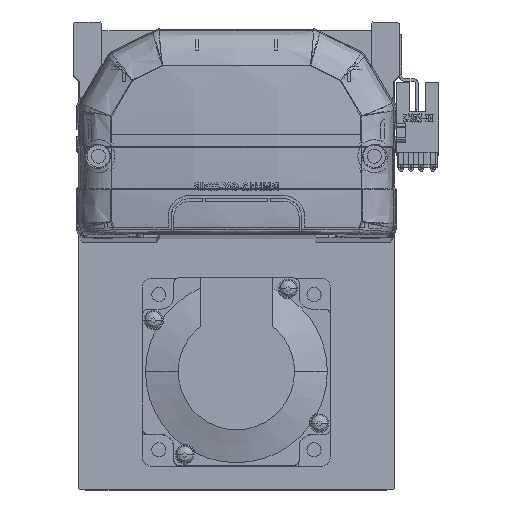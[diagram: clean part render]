
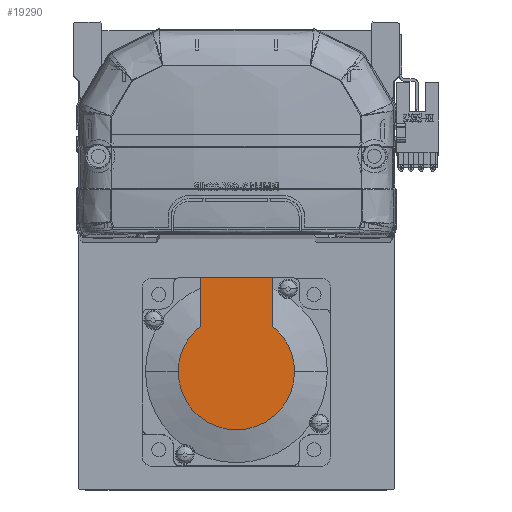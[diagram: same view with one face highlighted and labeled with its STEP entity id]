
A CAD part, top view. The second image highlights one B-rep face of the part: STEP entity #19290.
In plain terms, the highlighted planar face has unit normal (0, 0, 1) as drawn and (-1, 0, 0) by its records, which use the part's own axes.
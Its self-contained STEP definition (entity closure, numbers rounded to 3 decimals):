
#345 = ORIENTED_EDGE ( 'NONE', *, *, #17958, .F. ) ;
#1039 = ORIENTED_EDGE ( 'NONE', *, *, #50649, .T. ) ;
#4267 = EDGE_CURVE ( 'NONE', #32188, #49917, #45121, .T. ) ;
#5040 = AXIS2_PLACEMENT_3D ( 'NONE', #12572, #54698, #59197 ) ;
#7192 = VECTOR ( 'NONE', #46853, 1000. ) ;
#7307 = EDGE_CURVE ( 'NONE', #56940, #49917, #9126, .T. ) ;
#9040 = CARTESIAN_POINT ( 'NONE',  ( -79., 14.579, -11.45 ) ) ;
#9126 = LINE ( 'NONE', #28325, #34596 ) ;
#9581 = DIRECTION ( 'NONE',  ( 0., 0., 1. ) ) ;
#12572 = CARTESIAN_POINT ( 'NONE',  ( -79., 0., 0. ) ) ;
#13015 = CARTESIAN_POINT ( 'NONE',  ( -79., 0., -18.538 ) ) ;
#15123 = CARTESIAN_POINT ( 'NONE',  ( -79., -9.269, -11.45 ) ) ;
#15402 = CARTESIAN_POINT ( 'NONE',  ( -79., 30., 11.45 ) ) ;
#15641 = EDGE_CURVE ( 'NONE', #35999, #32188, #29150, .T. ) ;
#16313 = CARTESIAN_POINT ( 'NONE',  ( -79., 14.579, 11.45 ) ) ;
#17358 = AXIS2_PLACEMENT_3D ( 'NONE', #41036, #46353, #18283 ) ;
#17695 = FACE_OUTER_BOUND ( 'NONE', #18378, .T. ) ;
#17958 = EDGE_CURVE ( 'NONE', #23715, #56940, #58172, .T. ) ;
#18283 = DIRECTION ( 'NONE',  ( 0., 0., 1. ) ) ;
#18378 = EDGE_LOOP ( 'NONE', ( #21357, #1039, #28835, #54352, #44332, #345 ) ) ;
#19290 = ADVANCED_FACE ( 'NONE', ( #17695 ), #32317, .T. ) ;
#21357 = ORIENTED_EDGE ( 'NONE', *, *, #27764, .T. ) ;
#22863 = CARTESIAN_POINT ( 'NONE',  ( -79., 0., 0. ) ) ;
#22923 = DIRECTION ( 'NONE',  ( -1., 0., 0. ) ) ;
#23715 = VERTEX_POINT ( 'NONE', #56802 ) ;
#27764 = EDGE_CURVE ( 'NONE', #23715, #47859, #31970, .T. ) ;
#28325 = CARTESIAN_POINT ( 'NONE',  ( -79., 0., 11.45 ) ) ;
#28835 = ORIENTED_EDGE ( 'NONE', *, *, #15641, .T. ) ;
#29150 = CIRCLE ( 'NONE', #53121, 18.538 ) ;
#31970 = LINE ( 'NONE', #15123, #7192 ) ;
#32078 = DIRECTION ( 'NONE',  ( 0., 0., -1. ) ) ;
#32188 = VERTEX_POINT ( 'NONE', #34451 ) ;
#32317 = PLANE ( 'NONE',  #17358 ) ;
#32917 = AXIS2_PLACEMENT_3D ( 'NONE', #22863, #45640, #36281 ) ;
#34436 = CIRCLE ( 'NONE', #32917, 18.538 ) ;
#34451 = CARTESIAN_POINT ( 'NONE',  ( -79., 0., 18.538 ) ) ;
#34596 = VECTOR ( 'NONE', #52101, 1000. ) ;
#35999 = VERTEX_POINT ( 'NONE', #13015 ) ;
#36281 = DIRECTION ( 'NONE',  ( 0., 0., -1. ) ) ;
#41036 = CARTESIAN_POINT ( 'NONE',  ( -79., -9.269, 0. ) ) ;
#44328 = VECTOR ( 'NONE', #9581, 1000. ) ;
#44332 = ORIENTED_EDGE ( 'NONE', *, *, #7307, .F. ) ;
#45121 = CIRCLE ( 'NONE', #5040, 18.538 ) ;
#45640 = DIRECTION ( 'NONE',  ( -1., 0., 0. ) ) ;
#46353 = DIRECTION ( 'NONE',  ( -1., 0., 0. ) ) ;
#46809 = CARTESIAN_POINT ( 'NONE',  ( -79., 30., 27. ) ) ;
#46853 = DIRECTION ( 'NONE',  ( 0., -1., 0. ) ) ;
#47859 = VERTEX_POINT ( 'NONE', #9040 ) ;
#49917 = VERTEX_POINT ( 'NONE', #16313 ) ;
#50649 = EDGE_CURVE ( 'NONE', #47859, #35999, #34436, .T. ) ;
#52101 = DIRECTION ( 'NONE',  ( 0., -1., 0. ) ) ;
#53121 = AXIS2_PLACEMENT_3D ( 'NONE', #59777, #22923, #32078 ) ;
#54352 = ORIENTED_EDGE ( 'NONE', *, *, #4267, .T. ) ;
#54698 = DIRECTION ( 'NONE',  ( -1., 0., 0. ) ) ;
#56802 = CARTESIAN_POINT ( 'NONE',  ( -79., 30., -11.45 ) ) ;
#56940 = VERTEX_POINT ( 'NONE', #15402 ) ;
#58172 = LINE ( 'NONE', #46809, #44328 ) ;
#59197 = DIRECTION ( 'NONE',  ( 0., 0., -1. ) ) ;
#59777 = CARTESIAN_POINT ( 'NONE',  ( -79., 0., 0. ) ) ;
